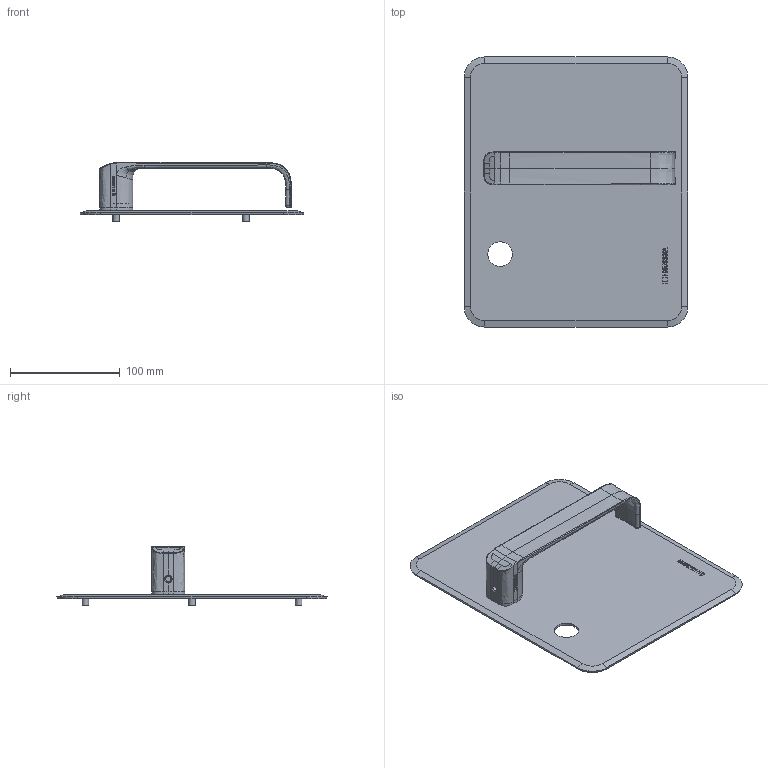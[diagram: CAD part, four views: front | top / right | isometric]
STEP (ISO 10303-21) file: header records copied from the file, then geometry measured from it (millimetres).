
FILE_DESCRIPTION(/* description */ (''),/* implementation_level */ '2;1');
FILE_NAME(/* name */ 'C:\ADSK_DMS_WS\Designs\Vorschläge\Loc Schalen\Muschel Serie 1\S1.0.D4\Heusser-Muschel S1.0.D4.278R.stp',/* time_stamp */ '2020-10-10T08:04:12+02:00',/* author */ ('gm'),/* organization */ (''),/* preprocessor_version */ 'ST-DEVELOPER v16.5',/* originating_system */ 'Autodesk Inventor 2017',/* authorisation */ '');
FILE_SCHEMA (('AUTOMOTIVE_DESIGN { 1 0 10303 214 3 1 1 }'));
Length unit declared in the file: millimetre
Products named in the file (1): S1.0.D1.0R
Bounding box: 203.62 x 245.62 x 54.54 mm (x, y, z)
Volume: 151687.1 mm3; surface area: 122276.9 mm2
Topology: 1 solids, 2 shells, 565 faces, 1487 edges, 974 vertices
Faces by surface type: plane 284, bspline 217, cylinder 34, cone 30
Full cylindrical faces by diameter (mm): 1.7 x2, 3.242 x3, 4.917 x1, 6 x3, 8 x3, 14.2 x1, 16 x3, 18 x1, 19 x1, 19.1 x1, 22.3 x1, 23 x1, 23.2 x1, 24 x1, 25 x1, 26 x1, 28 x1, 28.6 x1
Entity records: 24590 total; most frequent: CARTESIAN_POINT 11522, ORIENTED_EDGE 2862, DIRECTION 1928, EDGE_CURVE 1431, VERTEX_POINT 963, LINE 850, VECTOR 850, EDGE_LOOP 672
